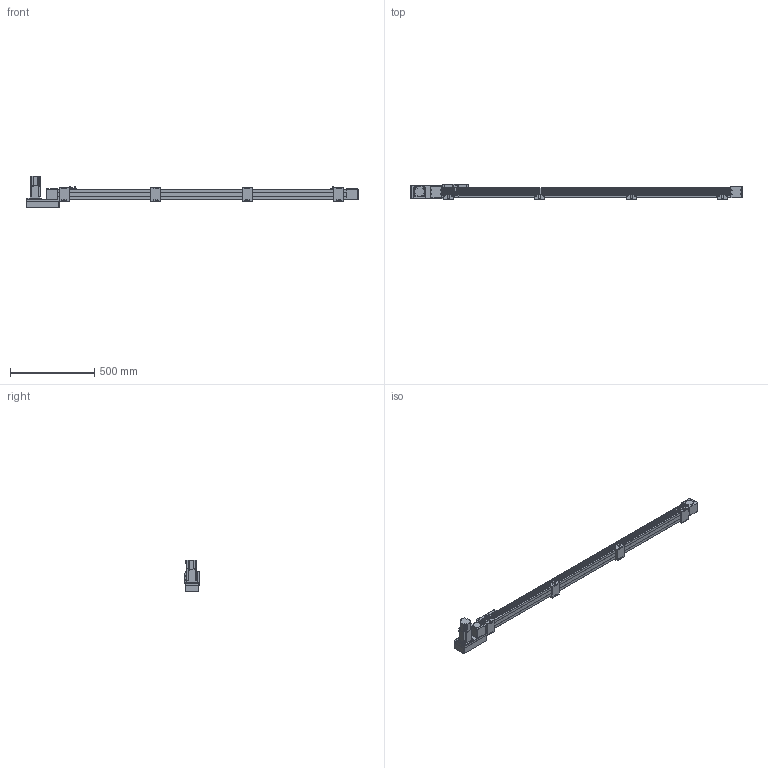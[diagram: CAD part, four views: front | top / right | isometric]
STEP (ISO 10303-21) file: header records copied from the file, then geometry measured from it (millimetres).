
FILE_DESCRIPTION(/* description */ ('STEP AP214'),/* implementation_level */ '2;1');
FILE_NAME(/* name */ 'SK60-P13-S1550-L-T40-C1-N(0)',/* time_stamp */ '2023-04-06T04:11:10+02:00',/* author */ ('License CC BY-ND 4.0'),/* organization */ ('CADENAS'),/* preprocessor_version */ 'ST-DEVELOPER v19.3',/* originating_system */ 'PARTsolutions',/* authorisation */ ' ');
FILE_SCHEMA (('AUTOMOTIVE_DESIGN {1 0 10303 214 3 1 1}'));
Length unit declared in the file: millimetre
Products named in the file (10): SK60-P13-S1550-L-T40-C1-N(0); PSC140-sensor; SK60-S450_seat; SK60-S450-BL-C1_slider; SK60_body3; SK60_body6; SK60-BL_body2; T40-p1; SK60-L_fb; SK60-S1550-L-C1_body
Assembly tree (18 placements, depth 2):
  SK60-P13-S1550-L-T40-C1-N(0)
    PSC140-sensor  x3
    SK60-S450_seat  x4
    SK60-S450-BL-C1_slider
    SK60_body3  x3
    SK60_body6  x2
    SK60-BL_body2  x2
    T40-p1
    SK60-L_fb
    SK60-S1550-L-C1_body
Bounding box: 1970.5 x 90 x 189.7 mm (x, y, z)
Volume: 7529958.4 mm3; surface area: 921394.8 mm2
Topology: 18 solids, 18 shells, 898 faces, 2244 edges, 1477 vertices
Faces by surface type: plane 572, cylinder 294, cone 30, torus 2
Full cylindrical faces by diameter (mm): 2.8 x3, 3.3 x4, 4 x2, 4.5 x30, 4.6 x3, 4.917 x24, 5 x6, 5.478 x4, 5.5 x27, 6.5 x8, 7 x2, 8 x4, 8.5 x4, 9.988 x4, 10 x16, 14 x1, 47 x3, 50 x2
Entity records: 18671 total; most frequent: DIRECTION 3188, CARTESIAN_POINT 3152, ORIENTED_EDGE 2940, EDGE_CURVE 1470, AXIS2_PLACEMENT_3D 1070, LINE 1048, VECTOR 1048, VERTEX_POINT 1034
